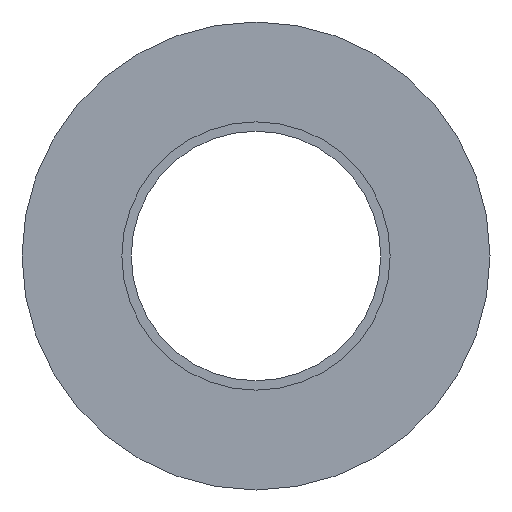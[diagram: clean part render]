
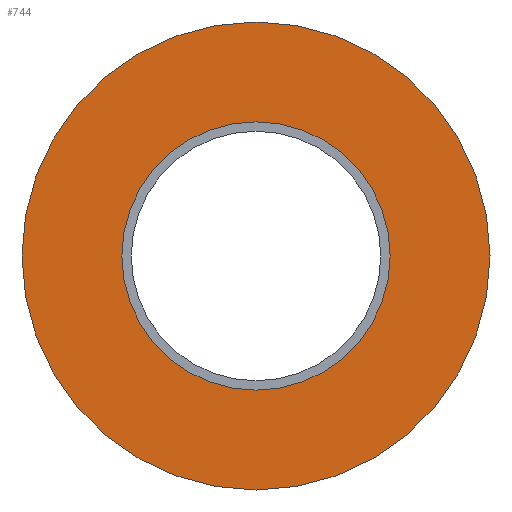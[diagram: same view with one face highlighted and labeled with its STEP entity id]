
A CAD part, left-side view. The second image highlights one B-rep face of the part: STEP entity #744.
In plain terms, the highlighted planar face has unit normal (-1, 0, 0).
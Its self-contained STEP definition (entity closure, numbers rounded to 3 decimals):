
#130=CARTESIAN_POINT('',(0.0,8.6,0.0));
#131=VERTEX_POINT('',#130);
#140=CARTESIAN_POINT('',(0.0,-8.6,0.));
#141=VERTEX_POINT('',#140);
#142=CARTESIAN_POINT('',(0.0,0.0,0.0));
#143=DIRECTION('',(1.0,0.0,0.0));
#144=DIRECTION('',(0.0,1.0,0.0));
#145=AXIS2_PLACEMENT_3D('',#142,#143,#144);
#146=CIRCLE('',#145,8.6);
#147=EDGE_CURVE('',#141,#131,#146,.T.);
#214=CARTESIAN_POINT('',(0.0,15.,0.0));
#215=VERTEX_POINT('',#214);
#224=CARTESIAN_POINT('',(0.0,-15.,0.));
#225=VERTEX_POINT('',#224);
#226=CARTESIAN_POINT('',(0.0,0.0,0.0));
#227=DIRECTION('',(1.0,0.0,0.0));
#228=DIRECTION('',(0.0,1.0,0.0));
#229=AXIS2_PLACEMENT_3D('',#226,#227,#228);
#230=CIRCLE('',#229,15.);
#231=EDGE_CURVE('',#215,#225,#230,.T.);
#645=CARTESIAN_POINT('',(0.0,0.0,0.0));
#646=DIRECTION('',(1.0,0.0,0.0));
#647=DIRECTION('',(0.0,1.0,0.0));
#648=AXIS2_PLACEMENT_3D('',#645,#646,#647);
#649=CIRCLE('',#648,15.);
#650=EDGE_CURVE('',#225,#215,#649,.T.);
#721=CARTESIAN_POINT('',(0.0,0.0,0.0));
#722=DIRECTION('',(1.0,0.0,0.0));
#723=DIRECTION('',(0.0,1.0,0.0));
#724=AXIS2_PLACEMENT_3D('',#721,#722,#723);
#725=CIRCLE('',#724,8.6);
#726=EDGE_CURVE('',#131,#141,#725,.T.);
#731=CARTESIAN_POINT('',(0.0,11.8,0.0));
#732=DIRECTION('',(-1.0,0.0,0.0));
#733=DIRECTION('',(0.0,0.0,1.0));
#734=AXIS2_PLACEMENT_3D('',#731,#732,#733);
#735=PLANE('',#734);
#736=ORIENTED_EDGE('',*,*,#231,.F.);
#737=ORIENTED_EDGE('',*,*,#650,.F.);
#738=EDGE_LOOP('',(#736,#737));
#739=FACE_OUTER_BOUND('',#738,.T.);
#740=ORIENTED_EDGE('',*,*,#726,.T.);
#741=ORIENTED_EDGE('',*,*,#147,.T.);
#742=EDGE_LOOP('',(#740,#741));
#743=FACE_BOUND('',#742,.T.);
#744=ADVANCED_FACE('',(#739,#743),#735,.T.);
